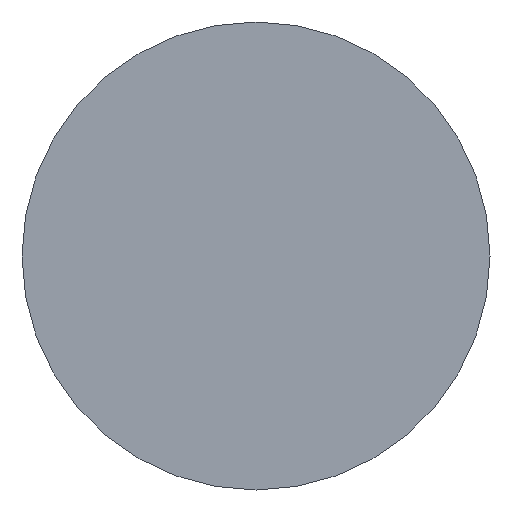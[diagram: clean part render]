
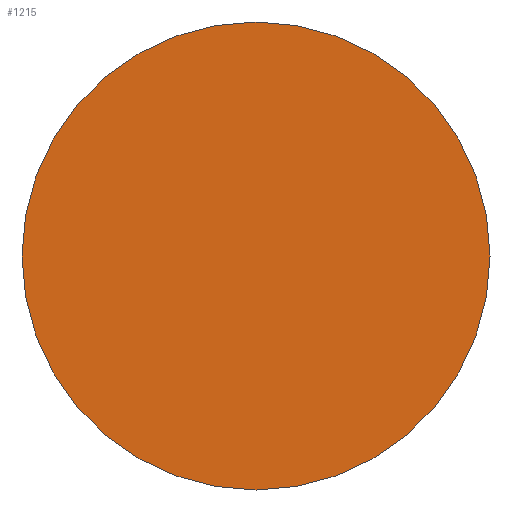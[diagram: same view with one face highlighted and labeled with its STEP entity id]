
A CAD part, front view. The second image highlights one B-rep face of the part: STEP entity #1215.
In plain terms, the highlighted planar face has unit normal (0, -1, 0).
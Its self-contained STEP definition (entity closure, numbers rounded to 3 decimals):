
#47 = DIRECTION ( 'NONE',  ( 0., 0., -1. ) ) ;
#93 = VERTEX_POINT ( 'NONE', #1117 ) ;
#154 = FACE_OUTER_BOUND ( 'NONE', #298, .T. ) ;
#219 = VERTEX_POINT ( 'NONE', #1154 ) ;
#220 = DIRECTION ( 'NONE',  ( 0., 0., -1. ) ) ;
#278 = ORIENTED_EDGE ( 'NONE', *, *, #1272, .T. ) ;
#298 = EDGE_LOOP ( 'NONE', ( #777, #278 ) ) ;
#418 = AXIS2_PLACEMENT_3D ( 'NONE', #779, #679, #786 ) ;
#439 = PLANE ( 'NONE',  #418 ) ;
#611 = DIRECTION ( 'NONE',  ( 0., -1., 0. ) ) ;
#679 = DIRECTION ( 'NONE',  ( 0., 1., 0. ) ) ;
#777 = ORIENTED_EDGE ( 'NONE', *, *, #1217, .T. ) ;
#779 = CARTESIAN_POINT ( 'NONE',  ( 0., 0., 0. ) ) ;
#786 = DIRECTION ( 'NONE',  ( 0., 0., 1. ) ) ;
#857 = CARTESIAN_POINT ( 'NONE',  ( 0., 0., 0. ) ) ;
#858 = AXIS2_PLACEMENT_3D ( 'NONE', #857, #1181, #47 ) ;
#997 = CIRCLE ( 'NONE', #858, 20. ) ;
#1029 = CIRCLE ( 'NONE', #1258, 20. ) ;
#1117 = CARTESIAN_POINT ( 'NONE',  ( 0., 0., 20. ) ) ;
#1154 = CARTESIAN_POINT ( 'NONE',  ( 0., 0., -20. ) ) ;
#1181 = DIRECTION ( 'NONE',  ( 0., -1., 0. ) ) ;
#1213 = CARTESIAN_POINT ( 'NONE',  ( 0., 0., 0. ) ) ;
#1215 = ADVANCED_FACE ( 'NONE', ( #154 ), #439, .F. ) ;
#1217 = EDGE_CURVE ( 'NONE', #219, #93, #997, .T. ) ;
#1258 = AXIS2_PLACEMENT_3D ( 'NONE', #1213, #611, #220 ) ;
#1272 = EDGE_CURVE ( 'NONE', #93, #219, #1029, .T. ) ;
